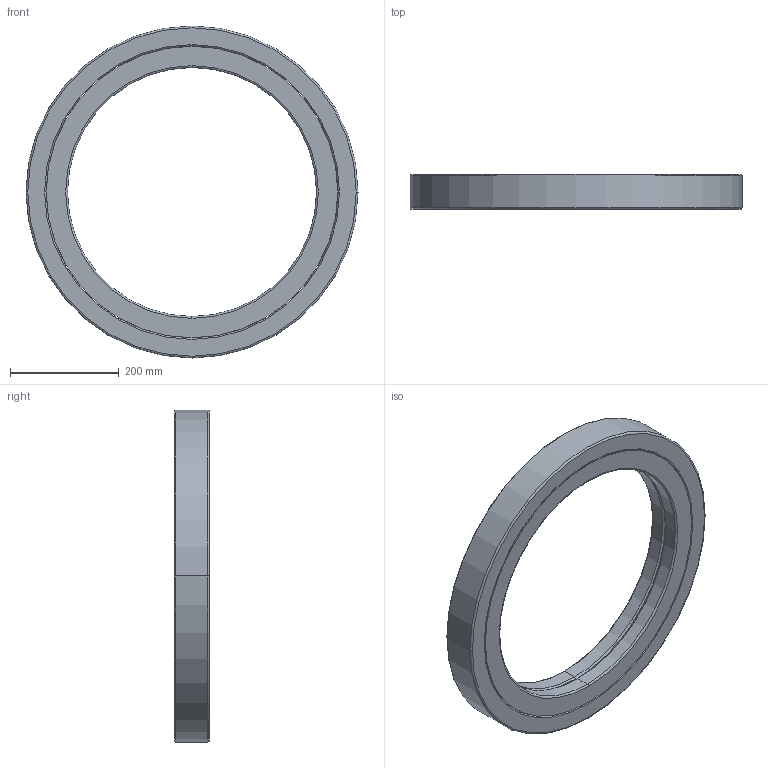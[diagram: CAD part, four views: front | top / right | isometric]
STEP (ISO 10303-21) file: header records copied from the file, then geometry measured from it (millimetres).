
FILE_DESCRIPTION((''),'2;1');
FILE_NAME('XR766051','2014-11-24T',('Administrator'),(''),'PRO/ENGINEER BY PARAMETRIC TECHNOLOGY CORPORATION, 2010180','PRO/ENGINEER BY PARAMETRIC TECHNOLOGY CORPORATION, 2010180','');
FILE_SCHEMA(('AUTOMOTIVE_DESIGN_CC2 { 1 2 10303 214 -1 1 5 2 }'));
Length unit declared in the file: millimetre
Products named in the file (1): XR766051
Bounding box: 609.6 x 63.5 x 609.6 mm (x, y, z)
Volume: 6536612.8 mm3; surface area: 782161.9 mm2
Topology: 3 solids, 6 shells, 69 faces, 1065 edges, 1010 vertices
Faces by surface type: cylinder 26, cone 18, torus 14, plane 11
Entity records: 10350 total; most frequent: DIRECTION 1306, CARTESIAN_POINT 1221, VECTOR 958, LINE 958, PRESENTATION_STYLE_ASSIGNMENT 936, STYLED_ITEM 936, CURVE_STYLE 916, TRIMMED_CURVE 915
